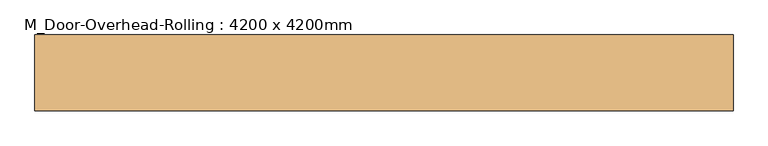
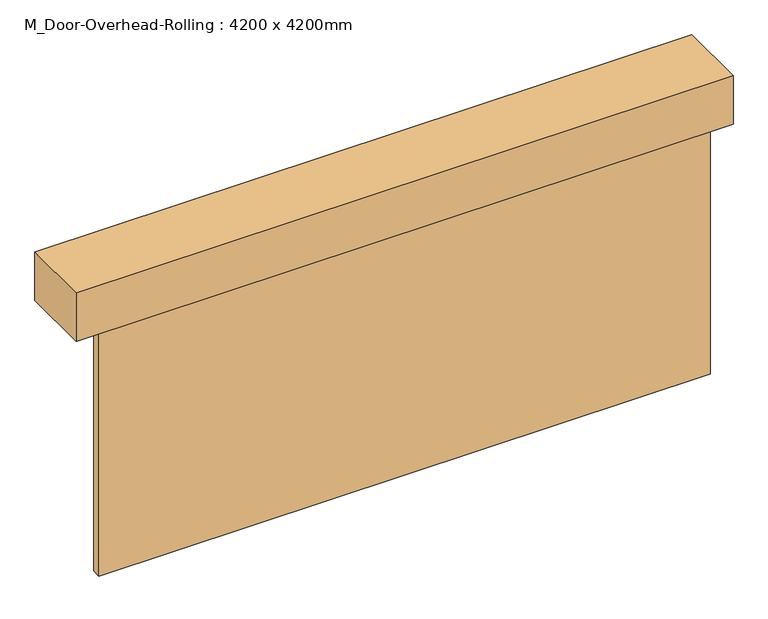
"""IFC4 building model written with IfcOpenShell, lengths in millimetres: door geometry, M_Door-Overhead-Rolling : 4200 x 4200mm."""

from ifc_helpers import new_model, si_unit, frame, origin, origin_with_axes, place, context, project, spatial, polyline, outline, extrude, source, transform, mapped, element, save


def m_door_overhead_rolling_4200_x_4200mm_02588e11(model_context):
    return source(origin(), model_context, "Body", "SweptSolid", [
        extrude(outline(polyline([(2936.803011, 738.8), (2936.803011, 100.0), (-2936.803011, 100.0), (-2936.803011, 738.8), (2936.803011, 738.8)])), frame((0.0, 0.0, 2290.5236894), z_axis=(0.0, 0.0, 1.0), x_axis=(1.0, 0.0, 0.0)), (0.0, 0.0, 1.0), 457.2),
        extrude(outline(polyline([(2733.603011, 100.0), (-2733.603011, 100.0), (-2733.603011, 180.0), (2733.603011, 180.0), (2733.603011, 100.0)])), origin_with_axes(), (0.0, 0.0, 1.0), 2290.5236894),
    ])


if __name__ == "__main__":
    model = new_model("IFC4")
    model_context = context("Model", 3, world=origin())
    ifc_project = project(units=[si_unit("LENGTHUNIT", "METRE", prefix="MILLI")], contexts=[model_context])
    site = spatial("IfcSite", under=ifc_project)
    building = spatial("IfcBuilding", under=site)
    placement = place(None, origin())
    m_door_overhead_rolling_4200_x_4200mm_shape = m_door_overhead_rolling_4200_x_4200mm_02588e11(model_context)
    element("IfcDoor", 1, ObjectType="M_Door-Overhead-Rolling : 4200 x 4200mm", at=placement, inside=building, context=model_context, shape_type="MappedRepresentation", body=[
        mapped(m_door_overhead_rolling_4200_x_4200mm_shape, transform((0.0, 0.0, 0.0), x_axis=(1.0, 0.0, 0.0), y_axis=(0.0, 1.0, 0.0), z_axis=(0.0, 0.0, 1.0))),
    ])
    save(model, "model.ifc")
